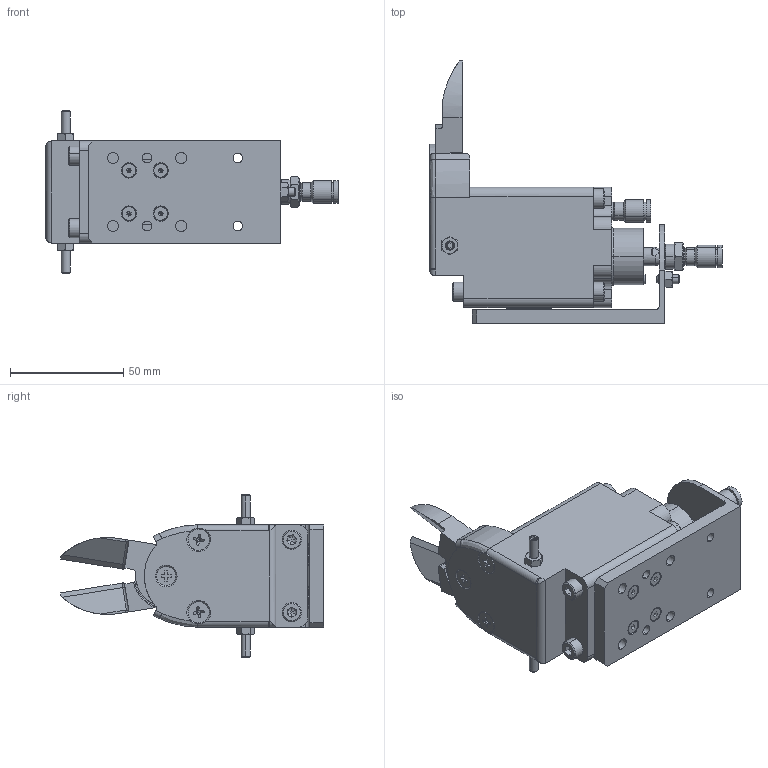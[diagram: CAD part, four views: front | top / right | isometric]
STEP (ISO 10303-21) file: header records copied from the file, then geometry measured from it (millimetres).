
FILE_DESCRIPTION (( 'STEP AP203' ), '1' );
FILE_NAME ('HNW-50.STEP', '2021-12-14T08:25:31', ( '' ), ( '' ), 'SwSTEP 2.0', 'SolidWorks 2018', '' );
FILE_SCHEMA (( 'CONFIG_CONTROL_DESIGN' ));
Length unit declared in the file: millimetre
Products named in the file (1): HNW-50
Bounding box: 128.8 x 115.91 x 71.48 mm (x, y, z)
Volume: 228256.6 mm3; surface area: 47926.6 mm2
Topology: 4 solids, 23 shells, 825 faces, 2021 edges, 1227 vertices
Faces by surface type: plane 384, cylinder 238, cone 120, bspline 68, torus 15
Entity records: 24635 total; most frequent: CARTESIAN_POINT 5446, DIRECTION 3957, ORIENTED_EDGE 3914, EDGE_CURVE 1957, AXIS2_PLACEMENT_3D 1425, VERTEX_POINT 1227, LINE 1107, VECTOR 1107
